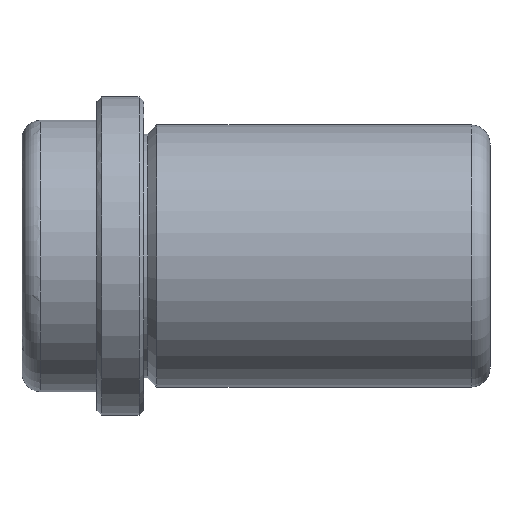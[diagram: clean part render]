
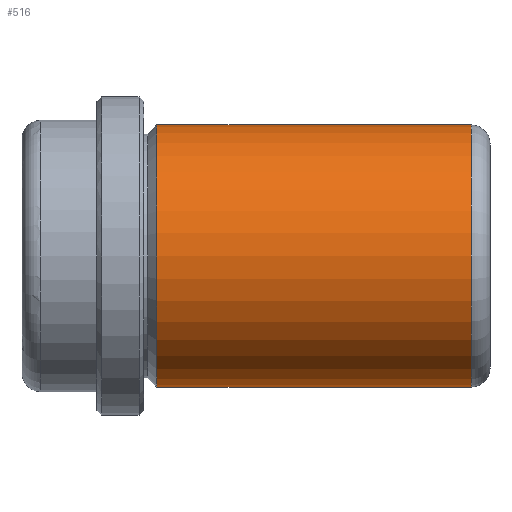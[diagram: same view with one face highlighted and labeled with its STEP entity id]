
A CAD part, front view. The second image highlights one B-rep face of the part: STEP entity #516.
In plain terms, the highlighted cylindrical face has radius 14 mm (diameter 28 mm), a partial arc.
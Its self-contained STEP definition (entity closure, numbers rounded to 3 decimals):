
#305=CARTESIAN_POINT('Line Origine',(37.,0.,14.)) ;
#309=CARTESIAN_POINT('Vertex',(35.,0.,14.)) ;
#311=CARTESIAN_POINT('Vertex',(1.414,0.,14.)) ;
#325=CARTESIAN_POINT('Vertex',(35.,0.,-14.)) ;
#328=CARTESIAN_POINT('Line Origine',(37.,0.,-14.)) ;
#332=CARTESIAN_POINT('Vertex',(1.414,0.,-14.)) ;
#479=CARTESIAN_POINT('Axis2P3D Location',(37.,0.,0.)) ;
#484=CARTESIAN_POINT('Axis2P3D Location',(35.,0.,0.)) ;
#488=CARTESIAN_POINT('Vertex',(35.,-14.,0.)) ;
#491=CARTESIAN_POINT('Axis2P3D Location',(35.,0.,0.)) ;
#496=CARTESIAN_POINT('Axis2P3D Location',(1.414,0.,0.)) ;
#500=CARTESIAN_POINT('Vertex',(1.414,-14.,0.)) ;
#503=CARTESIAN_POINT('Axis2P3D Location',(1.414,0.,0.)) ;
#306=DIRECTION('Vector Direction',(-1.,0.,0.)) ;
#329=DIRECTION('Vector Direction',(-1.,0.,0.)) ;
#480=DIRECTION('Axis2P3D Direction',(-1.,-0.,-0.)) ;
#481=DIRECTION('Axis2P3D XDirection',(0.,0.,-1.)) ;
#485=DIRECTION('Axis2P3D Direction',(-1.,-0.,-0.)) ;
#492=DIRECTION('Axis2P3D Direction',(-1.,-0.,-0.)) ;
#497=DIRECTION('Axis2P3D Direction',(-1.,-0.,-0.)) ;
#504=DIRECTION('Axis2P3D Direction',(-1.,-0.,-0.)) ;
#482=AXIS2_PLACEMENT_3D('Cylinder Axis2P3D',#479,#480,#481) ;
#486=AXIS2_PLACEMENT_3D('Circle Axis2P3D',#484,#485,$) ;
#493=AXIS2_PLACEMENT_3D('Circle Axis2P3D',#491,#492,$) ;
#498=AXIS2_PLACEMENT_3D('Circle Axis2P3D',#496,#497,$) ;
#505=AXIS2_PLACEMENT_3D('Circle Axis2P3D',#503,#504,$) ;
#509=ORIENTED_EDGE('',*,*,#334,.T.) ;
#510=ORIENTED_EDGE('',*,*,#490,.F.) ;
#511=ORIENTED_EDGE('',*,*,#495,.F.) ;
#512=ORIENTED_EDGE('',*,*,#313,.T.) ;
#513=ORIENTED_EDGE('',*,*,#502,.T.) ;
#514=ORIENTED_EDGE('',*,*,#507,.T.) ;
#307=VECTOR('Line Direction',#306,1.) ;
#330=VECTOR('Line Direction',#329,1.) ;
#516=ADVANCED_FACE('FAMO-SF1-B19 x 50',(#515),#483,.T.) ;
#487=CIRCLE('generated circle',#486,14.) ;
#494=CIRCLE('generated circle',#493,14.) ;
#499=CIRCLE('generated circle',#498,14.) ;
#506=CIRCLE('generated circle',#505,14.) ;
#483=CYLINDRICAL_SURFACE('generated cylinder',#482,14.) ;
#313=EDGE_CURVE('',#310,#312,#308,.T.) ;
#334=EDGE_CURVE('',#333,#326,#331,.F.) ;
#490=EDGE_CURVE('',#489,#326,#487,.F.) ;
#495=EDGE_CURVE('',#310,#489,#494,.F.) ;
#502=EDGE_CURVE('',#312,#501,#499,.F.) ;
#507=EDGE_CURVE('',#501,#333,#506,.F.) ;
#508=EDGE_LOOP('',(#509,#510,#511,#512,#513,#514)) ;
#515=FACE_OUTER_BOUND('',#508,.T.) ;
#308=LINE('Line',#305,#307) ;
#331=LINE('Line',#328,#330) ;
#310=VERTEX_POINT('',#309) ;
#312=VERTEX_POINT('',#311) ;
#326=VERTEX_POINT('',#325) ;
#333=VERTEX_POINT('',#332) ;
#489=VERTEX_POINT('',#488) ;
#501=VERTEX_POINT('',#500) ;
